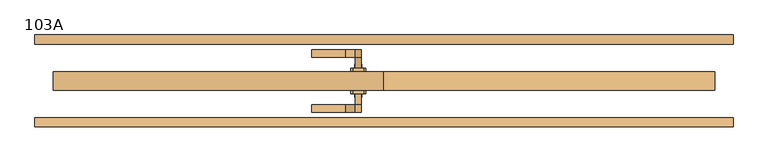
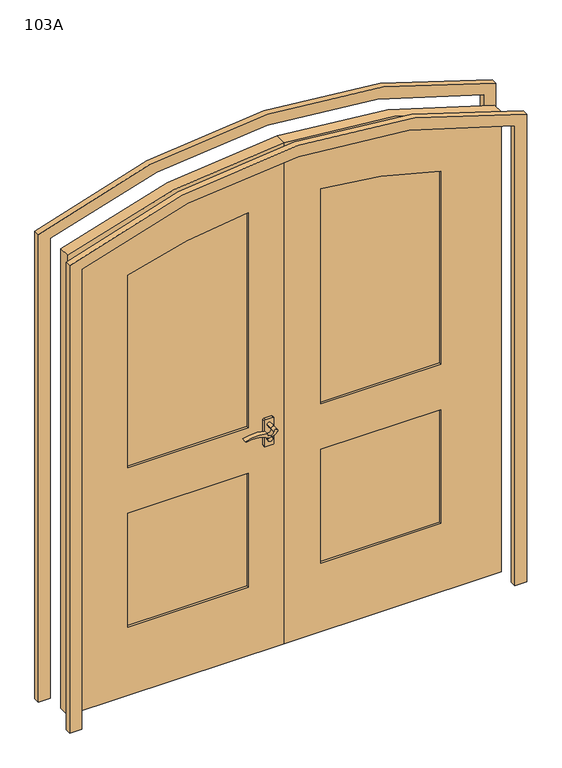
"""IFC4 building model written with IfcOpenShell, lengths in millimetres: door geometry, 双开门(恢复) : 103A."""

from ifc_helpers import new_model, si_unit, point, frame, frame_2d, origin, place, context, project, spatial, polyline, circle_curve, trimmed, segment, composite_curve, outline, extrude, source, transform, mapped, element, save
from ifc_brep_helpers import plane_surface, cylinder_surface, revolved_surface, advanced_brep


def door_103a_7dd64f01(model_context):
    return source(origin(), model_context, "Body", "SolidModel", [
        extrude(outline(composite_curve([segment(trimmed(circle_curve(frame_2d((935.0, -70.0)), 10.0), [point((935.0, -80.0))], [point((935.0, -60.0))], False, "CARTESIAN"), True, "CONTINUOUS"), segment(trimmed(circle_curve(frame_2d((935.0, -70.0)), 10.0), [point((935.0, -60.0))], [point((935.0, -80.0))], False, "CARTESIAN"), True, "CONTINUOUS")], self_intersect=False)), frame((0.0, -45.0, 0.0), z_axis=(0.0, 1.0, 0.0), x_axis=(0.0, 0.0, 1.0)), (0.0, 0.0, 1.0), 10.0),
        extrude(outline(composite_curve([segment(trimmed(circle_curve(frame_2d((935.0, -70.0)), 10.0), [point((935.0, -80.0))], [point((935.0, -60.0))], False, "CARTESIAN"), True, "CONTINUOUS"), segment(trimmed(circle_curve(frame_2d((935.0, -70.0)), 10.0), [point((935.0, -60.0))], [point((935.0, -80.0))], False, "CARTESIAN"), True, "CONTINUOUS")], self_intersect=False)), frame((0.0, 35.0, 0.0), z_axis=(0.0, 1.0, 0.0), x_axis=(0.0, 0.0, 1.0)), (0.0, 0.0, 1.0), 10.0),
        extrude(outline(composite_curve([segment(trimmed(circle_curve(frame_2d((995.0, -70.0)), 8.0000034), [point((990.3476652, -63.4918639))], [point((995.0, -78.0000034))], False, "CARTESIAN"), True, "CONTINUOUS"), segment(trimmed(circle_curve(frame_2d((995.0, -91.8559281)), 13.8559247), [point((995.0, -78.0000034))], [point((994.6945887, -105.7084865))], True, "CARTESIAN"), True, "CONTINUOUS"), segment(trimmed(circle_curve(frame_2d((820.9182734, -147.471636)), 178.7242804), [point((994.6945887, -105.7084865))], [point((992.6849677, -196.8535268))], False, "CARTESIAN"), True, "CONTINUOUS"), segment(polyline([(992.6849677, -196.8535268), (989.1494307, -193.3179936)]), True, "CONTINUOUS"), segment(trimmed(circle_curve(frame_2d((876.1214485, -165.1751197)), 116.4789514), [point((989.1494307, -193.3179936))], [point((979.2382475, -111.0061997))], True, "CARTESIAN"), True, "CONTINUOUS"), segment(trimmed(circle_curve(frame_2d((1012.2444372, -93.6675152)), 37.2832209), [point((979.2382475, -111.0061997))], [point((990.3476652, -63.4918639))], False, "CARTESIAN"), True, "CONTINUOUS")], self_intersect=False)), frame((0.0, -85.0, 0.0), z_axis=(0.0, 1.0, 0.0), x_axis=(0.0, 0.0, 1.0)), (0.0, 0.0, 1.0), 20.0),
        extrude(outline(composite_curve([segment(trimmed(circle_curve(frame_2d((995.0000265, -91.8559261)), 13.8559261), [point((995.0000097, -78.0))], [point((994.6945968, -105.7084855))], True, "CARTESIAN"), True, "CONTINUOUS"), segment(trimmed(circle_curve(frame_2d((820.9182829, -147.4716342)), 178.7242789), [point((994.6945968, -105.7084855))], [point((992.6849752, -196.8535264))], False, "CARTESIAN"), True, "CONTINUOUS"), segment(polyline([(992.6849752, -196.8535264), (989.1494413, -193.3179925)]), True, "CONTINUOUS"), segment(trimmed(circle_curve(frame_2d((876.1214595, -165.1751193)), 116.4789508), [point((989.1494413, -193.3179925))], [point((979.2382573, -111.0061984))], True, "CARTESIAN"), True, "CONTINUOUS"), segment(trimmed(circle_curve(frame_2d((1012.2444479, -93.6675129)), 37.2832219), [point((979.2382573, -111.0061984))], [point((990.3476713, -63.4918637))], False, "CARTESIAN"), True, "CONTINUOUS"), segment(trimmed(circle_curve(frame_2d((995.0, -70.0)), 8.0), [point((990.3476713, -63.4918637))], [point((995.0000097, -78.0))], False, "CARTESIAN"), True, "CONTINUOUS")], self_intersect=False)), frame((0.0, 65.0, 0.0), z_axis=(0.0, 1.0, 0.0), x_axis=(0.0, 0.0, 1.0)), (0.0, 0.0, 1.0), 20.0),
        extrude(outline(composite_curve([segment(trimmed(circle_curve(frame_2d((995.0, -70.0)), 8.0), [point((995.0, -78.0))], [point((995.0, -62.0))], False, "CARTESIAN"), True, "CONTINUOUS"), segment(trimmed(circle_curve(frame_2d((995.0, -70.0)), 8.0), [point((995.0, -62.0))], [point((995.0, -78.0))], False, "CARTESIAN"), True, "CONTINUOUS")], self_intersect=False)), frame((0.0, -65.0, 0.0), z_axis=(0.0, 1.0, 0.0), x_axis=(0.0, 0.0, 1.0)), (0.0, 0.0, 1.0), 30.0),
        extrude(outline(composite_curve([segment(trimmed(circle_curve(frame_2d((995.0, -70.0)), 8.0), [point((995.0, -78.0))], [point((995.0, -62.0))], False, "CARTESIAN"), True, "CONTINUOUS"), segment(trimmed(circle_curve(frame_2d((995.0, -70.0)), 8.0), [point((995.0, -62.0))], [point((995.0, -78.0))], False, "CARTESIAN"), True, "CONTINUOUS")], self_intersect=False)), frame((0.0, 35.0, 0.0), z_axis=(0.0, 1.0, 0.0), x_axis=(0.0, 0.0, 1.0)), (0.0, 0.0, 1.0), 30.0),
        extrude(outline(composite_curve([segment(polyline([(905.0, -50.0), (1015.0, -50.0)]), True, "CONTINUOUS"), segment(trimmed(circle_curve(frame_2d((1015.0, -55.0)), 5.0), [point((1015.0, -50.0))], [point((1020.0, -55.0))], False, "CARTESIAN"), True, "CONTINUOUS"), segment(polyline([(1020.0, -55.0), (1020.0, -85.0)]), True, "CONTINUOUS"), segment(trimmed(circle_curve(frame_2d((1015.0, -85.0)), 5.0), [point((1020.0, -85.0))], [point((1015.0, -90.0))], False, "CARTESIAN"), True, "CONTINUOUS"), segment(polyline([(1015.0, -90.0), (905.0, -90.0)]), True, "CONTINUOUS"), segment(trimmed(circle_curve(frame_2d((905.0, -85.0)), 5.0), [point((905.0, -90.0))], [point((900.0, -85.0))], False, "CARTESIAN"), True, "CONTINUOUS"), segment(polyline([(900.0, -85.0), (900.0, -55.0)]), True, "CONTINUOUS"), segment(trimmed(circle_curve(frame_2d((905.0, -55.0)), 5.0), [point((900.0, -55.0))], [point((905.0, -50.0))], False, "CARTESIAN"), True, "CONTINUOUS")], self_intersect=False)), frame((0.0, -35.0, 0.0), z_axis=(0.0, 1.0, 0.0), x_axis=(0.0, 0.0, 1.0)), (0.0, 0.0, 1.0), 10.0),
        extrude(outline(composite_curve([segment(polyline([(905.0, -50.0), (1015.0, -50.0)]), True, "CONTINUOUS"), segment(trimmed(circle_curve(frame_2d((1015.0, -55.0)), 5.0), [point((1015.0, -50.0))], [point((1020.0, -55.0))], False, "CARTESIAN"), True, "CONTINUOUS"), segment(polyline([(1020.0, -55.0), (1020.0, -85.0)]), True, "CONTINUOUS"), segment(trimmed(circle_curve(frame_2d((1015.0, -85.0)), 5.0), [point((1020.0, -85.0))], [point((1015.0, -90.0))], False, "CARTESIAN"), True, "CONTINUOUS"), segment(polyline([(1015.0, -90.0), (905.0, -90.0)]), True, "CONTINUOUS"), segment(trimmed(circle_curve(frame_2d((905.0, -85.0)), 5.0), [point((905.0, -90.0))], [point((900.0, -85.0))], False, "CARTESIAN"), True, "CONTINUOUS"), segment(polyline([(900.0, -85.0), (900.0, -55.0)]), True, "CONTINUOUS"), segment(trimmed(circle_curve(frame_2d((905.0, -55.0)), 5.0), [point((900.0, -55.0))], [point((905.0, -50.0))], False, "CARTESIAN"), True, "CONTINUOUS")], self_intersect=False)), frame((0.0, 25.0, 0.0), z_axis=(0.0, 1.0, 0.0), x_axis=(0.0, 0.0, 1.0)), (0.0, 0.0, 1.0), 10.0),
        advanced_brep(
        [(0.0, 25.0, 2200.0), (900.0, 25.0, 2020.0), (900.0, 25.0, 0.0), (0.0, 25.0, 0.0), (0.0, -25.0, 2200.0), (0.0, -25.0, 0.0), (900.0, -25.0, 0.0), (900.0, -25.0, 2020.0), (650.0, -25.0, 300.0), (150.0, -25.0, 300.0), (150.0, -25.0, 800.0), (650.0, -25.0, 800.0), (150.0, -25.0, 1000.0), (150.0, -25.0, 1944.6102753), (650.0, -25.0, 1846.3534429), (650.0, -25.0, 1000.0), (650.0, -15.0, 800.0), (150.0, -15.0, 800.0), (150.0, -15.0, 300.0), (650.0, -15.0, 300.0), (650.0, -15.0, 1000.0), (650.0, -15.0, 1846.3534429), (150.0, -15.0, 1944.6102753), (150.0, -15.0, 1000.0)],
        [
            (0, 1, circle_curve(frame((0.0, 25.0, -140.0), z_axis=(0.0, 1.0, 0.0), x_axis=(1.0, 0.0, 0.0)), 2340.0)),
            (1, 2),
            (2, 3),
            (3, 0),
            (4, 5),
            (5, 6),
            (6, 7),
            (7, 4, circle_curve(frame((0.0, -25.0, -140.0), z_axis=(0.0, -1.0, 0.0), x_axis=(1.0, 0.0, 0.0)), 2340.0)),
            (8, 9),
            (9, 10),
            (10, 11),
            (11, 8),
            (12, 13),
            (13, 14, circle_curve(frame((0.0, -25.0, -140.0), z_axis=(0.0, 1.0, 0.0), x_axis=(-1.0, 0.0, 0.0)), 2090.0)),
            (14, 15),
            (15, 12),
            (3, 5),
            (4, 0),
            (2, 6),
            (1, 7),
            (16, 17),
            (17, 18),
            (18, 19),
            (19, 16),
            (20, 21),
            (21, 22, circle_curve(frame((0.0, -15.0, -140.0), z_axis=(0.0, -1.0, 0.0), x_axis=(-1.0, 0.0, 0.0)), 2090.0)),
            (22, 23),
            (23, 20),
            (19, 8),
            (11, 16),
            (18, 9),
            (17, 10),
            (23, 12),
            (15, 20),
            (22, 13),
            (21, 14),
        ],
        [
            plane_surface(frame((0.0, 25.0, 0.0), z_axis=(0.0, 1.0, 0.0), x_axis=(0.0, 0.0, -1.0))),
            plane_surface(frame((0.0, -25.0, 0.0), z_axis=(0.0, -1.0, 0.0), x_axis=(0.0, 0.0, 1.0))),
            plane_surface(frame((0.0, 25.0, 2200.0), z_axis=(-1.0, 0.0, 0.0), x_axis=(0.0, -1.0, 0.0))),
            plane_surface(frame((0.0, 25.0, 0.0), z_axis=(0.0, 0.0, -1.0), x_axis=(0.0, -1.0, 0.0))),
            plane_surface(frame((900.0, 25.0, 0.0), z_axis=(1.0, 0.0, 0.0), x_axis=(0.0, -1.0, 0.0))),
            cylinder_surface(frame((0.0, -25.0, -140.0), z_axis=(0.0, 1.0, 0.0), x_axis=(1.0, 0.0, 0.0)), 2340.0),
            plane_surface(frame((150.0, -15.0, 800.0), z_axis=(0.0, -1.0, 0.0), x_axis=(-1.0, 0.0, 0.0))),
            plane_surface(frame((650.0, -15.0, 300.0), z_axis=(-1.0, 0.0, 0.0), x_axis=(0.0, -1.0, 0.0))),
            plane_surface(frame((150.0, -15.0, 300.0), z_axis=(0.0, 0.0, 1.0), x_axis=(0.0, -1.0, 0.0))),
            plane_surface(frame((150.0, -15.0, 800.0), z_axis=(1.0, 0.0, 0.0), x_axis=(0.0, -1.0, 0.0))),
            plane_surface(frame((650.0, -15.0, 800.0), z_axis=(0.0, 0.0, -1.0), x_axis=(0.0, -1.0, 0.0))),
            plane_surface(frame((150.0, -15.0, 1000.0), z_axis=(0.0, 0.0, 1.0), x_axis=(0.0, -1.0, 0.0))),
            plane_surface(frame((150.0, -15.0, 1944.6102753), z_axis=(1.0, 0.0, 0.0), x_axis=(0.0, -1.0, 0.0))),
            revolved_surface(polyline([(-2090.0, -15.0, -140.0), (-2090.0, -25.0, -140.0)]), (0.0, -25.0, -140.0), (0.0, 1.0, 0.0)),
            plane_surface(frame((650.0, -15.0, 1000.0), z_axis=(-1.0, 0.0, 0.0), x_axis=(0.0, -1.0, 0.0))),
        ],
        [
            (0, [[1, 2, 3, 4]]),
            (1, [[5, 6, 7, 8], [9, 10, 11, 12], [13, 14, 15, 16]]),
            (2, [[17, -5, 18, -4]]),
            (3, [[19, -6, -17, -3]]),
            (4, [[20, -7, -19, -2]]),
            (5, [[-18, -8, -20, -1]]),
            (6, [[21, 22, 23, 24]]),
            (6, [[25, 26, 27, 28]]),
            (7, [[29, -12, 30, -24]]),
            (8, [[31, -9, -29, -23]]),
            (9, [[32, -10, -31, -22]]),
            (10, [[-30, -11, -32, -21]]),
            (11, [[33, -16, 34, -28]]),
            (12, [[35, -13, -33, -27]]),
            (13, [[36, -14, -35, -26]]),
            (14, [[-34, -15, -36, -25]]),
        ],
    ),
        advanced_brep(
        [(0.0, 25.0, 0.0), (-900.0, 25.0, 0.0), (-900.0, 25.0, 2020.0), (0.0, 25.0, 2200.0), (0.0, -25.0, 0.0), (0.0, -25.0, 2200.0), (-900.0, -25.0, 2020.0), (-900.0, -25.0, 0.0), (-650.0, -25.0, 800.0), (-150.0, -25.0, 800.0), (-150.0, -25.0, 300.0), (-650.0, -25.0, 300.0), (-650.0, -25.0, 1000.0), (-650.0, -25.0, 1846.3534429), (-150.0, -25.0, 1944.6102753), (-150.0, -25.0, 1000.0), (-650.0, -15.0, 800.0), (-650.0, -15.0, 300.0), (-150.0, -15.0, 300.0), (-150.0, -15.0, 800.0), (-650.0, -15.0, 1000.0), (-150.0, -15.0, 1000.0), (-150.0, -15.0, 1944.6102753), (-650.0, -15.0, 1846.3534429)],
        [
            (0, 1),
            (1, 2),
            (2, 3, circle_curve(frame((0.0, 25.0, -140.0), z_axis=(0.0, 1.0, 0.0), x_axis=(1.0, 0.0, 0.0)), 2340.0)),
            (3, 0),
            (4, 5),
            (5, 6, circle_curve(frame((0.0, -25.0, -140.0), z_axis=(0.0, -1.0, 0.0), x_axis=(1.0, 0.0, 0.0)), 2340.0)),
            (6, 7),
            (7, 4),
            (8, 9),
            (9, 10),
            (10, 11),
            (11, 8),
            (12, 13),
            (13, 14, circle_curve(frame((0.0, -25.0, -140.0), z_axis=(0.0, 1.0, 0.0), x_axis=(1.0, 0.0, 0.0)), 2090.0)),
            (14, 15),
            (15, 12),
            (3, 5),
            (4, 0),
            (2, 6),
            (1, 7),
            (16, 17),
            (17, 18),
            (18, 19),
            (19, 16),
            (20, 21),
            (21, 22),
            (22, 23, circle_curve(frame((0.0, -15.0, -140.0), z_axis=(0.0, -1.0, 0.0), x_axis=(1.0, 0.0, 0.0)), 2090.0)),
            (23, 20),
            (16, 8),
            (11, 17),
            (10, 18),
            (9, 19),
            (20, 12),
            (15, 21),
            (14, 22),
            (13, 23),
        ],
        [
            plane_surface(frame((0.0, 25.0, 3632.4185761), z_axis=(0.0, 1.0, 0.0), x_axis=(0.0, 0.0, 1.0))),
            plane_surface(frame((0.0, -25.0, 3632.4185761), z_axis=(0.0, -1.0, 0.0), x_axis=(0.0, 0.0, -1.0))),
            plane_surface(frame((0.0, 25.0, 0.0), z_axis=(1.0, 0.0, 0.0), x_axis=(0.0, -1.0, 0.0))),
            cylinder_surface(frame((0.0, -25.0, -140.0), z_axis=(0.0, 1.0, 0.0), x_axis=(1.0, 0.0, 0.0)), 2340.0),
            plane_surface(frame((-900.0, 25.0, 2020.0), z_axis=(-1.0, 0.0, 0.0), x_axis=(0.0, -1.0, 0.0))),
            plane_surface(frame((-900.0, 25.0, 0.0), z_axis=(0.0, 0.0, -1.0), x_axis=(0.0, -1.0, 0.0))),
            plane_surface(frame((-650.0, -15.0, 800.0), z_axis=(0.0, -1.0, 0.0), x_axis=(0.0, 0.0, -1.0))),
            plane_surface(frame((-650.0, -15.0, 800.0), z_axis=(1.0, 0.0, 0.0), x_axis=(0.0, -1.0, 0.0))),
            plane_surface(frame((-650.0, -15.0, 300.0), z_axis=(0.0, 0.0, 1.0), x_axis=(0.0, -1.0, 0.0))),
            plane_surface(frame((-150.0, -15.0, 300.0), z_axis=(-1.0, 0.0, 0.0), x_axis=(0.0, -1.0, 0.0))),
            plane_surface(frame((-150.0, -15.0, 800.0), z_axis=(0.0, 0.0, -1.0), x_axis=(0.0, -1.0, 0.0))),
            plane_surface(frame((-650.0, -15.0, 1000.0), z_axis=(0.0, 0.0, 1.0), x_axis=(0.0, -1.0, 0.0))),
            plane_surface(frame((-150.0, -15.0, 1000.0), z_axis=(-1.0, 0.0, 0.0), x_axis=(0.0, -1.0, 0.0))),
            revolved_surface(polyline([(2090.0, -15.0, -140.0), (2090.0, -25.0, -140.0)]), (0.0, -25.0, -140.0), (0.0, 1.0, 0.0)),
            plane_surface(frame((-650.0, -15.0, 1846.3534429), z_axis=(1.0, 0.0, 0.0), x_axis=(0.0, -1.0, 0.0))),
        ],
        [
            (0, [[1, 2, 3, 4]]),
            (1, [[5, 6, 7, 8], [9, 10, 11, 12], [13, 14, 15, 16]]),
            (2, [[17, -5, 18, -4]]),
            (3, [[19, -6, -17, -3]]),
            (4, [[20, -7, -19, -2]]),
            (5, [[-18, -8, -20, -1]]),
            (6, [[21, 22, 23, 24]]),
            (6, [[25, 26, 27, 28]]),
            (7, [[29, -12, 30, -21]]),
            (8, [[-30, -11, 31, -22]]),
            (9, [[-31, -10, 32, -23]]),
            (10, [[-32, -9, -29, -24]]),
            (11, [[33, -16, 34, -25]]),
            (12, [[-34, -15, 35, -26]]),
            (13, [[-35, -14, 36, -27]]),
            (14, [[-36, -13, -33, -28]]),
        ],
    ),
        extrude(outline(composite_curve([segment(trimmed(circle_curve(frame_2d((-140.0, 0.0)), 2340.0), [point((2020.0, -900.0))], [point((2020.0, 900.0))], True, "CARTESIAN"), True, "CONTINUOUS"), segment(polyline([(2020.0, 900.0), (0.0, 900.0), (0.0, 950.0), (2053.0800259, 950.0)]), True, "CONTINUOUS"), segment(trimmed(circle_curve(frame_2d((-140.0, 0.0)), 2390.0), [point((2053.0800259, 950.0))], [point((2053.0800259, -950.0))], False, "CARTESIAN"), True, "CONTINUOUS"), segment(polyline([(2053.0800259, -950.0), (0.0, -950.0), (0.0, -900.0), (2020.0, -900.0)]), True, "CONTINUOUS")], self_intersect=False)), frame((0.0, -125.0, 0.0), z_axis=(0.0, 1.0, 0.0), x_axis=(0.0, 0.0, 1.0)), (0.0, 0.0, 1.0), 25.0),
        extrude(outline(composite_curve([segment(polyline([(2053.0800259, -950.0), (0.0, -950.0), (0.0, -900.0), (2020.0, -900.0)]), True, "CONTINUOUS"), segment(trimmed(circle_curve(frame_2d((-140.0, 0.0)), 2340.0), [point((2020.0, -900.0))], [point((2020.0, 900.0))], True, "CARTESIAN"), True, "CONTINUOUS"), segment(polyline([(2020.0, 900.0), (0.0, 900.0), (0.0, 950.0), (2053.0800259, 950.0)]), True, "CONTINUOUS"), segment(trimmed(circle_curve(frame_2d((-140.0, 0.0)), 2390.0), [point((2053.0800259, 950.0))], [point((2053.0800259, -950.0))], False, "CARTESIAN"), True, "CONTINUOUS")], self_intersect=False)), frame((0.0, 100.0, 0.0), z_axis=(0.0, 1.0, 0.0), x_axis=(0.0, 0.0, 1.0)), (0.0, 0.0, 1.0), 25.0),
    ])


if __name__ == "__main__":
    model = new_model("IFC4")
    model_context = context("Model", 3, world=origin())
    ifc_project = project(units=[si_unit("LENGTHUNIT", "METRE", prefix="MILLI")], contexts=[model_context])
    site = spatial("IfcSite", under=ifc_project)
    building = spatial("IfcBuilding", under=site)
    placement = place(None, origin())
    door_103a_shape = door_103a_7dd64f01(model_context)
    element("IfcDoor", 1, ObjectType="双开门(恢复) : 103A", at=placement, inside=building, context=model_context, shape_type="MappedRepresentation", body=[
        mapped(door_103a_shape, transform((0.0, 0.0, 0.0), x_axis=(1.0, 0.0, 0.0), y_axis=(0.0, 1.0, 0.0), z_axis=(0.0, 0.0, 1.0))),
    ])
    save(model, "model.ifc")
